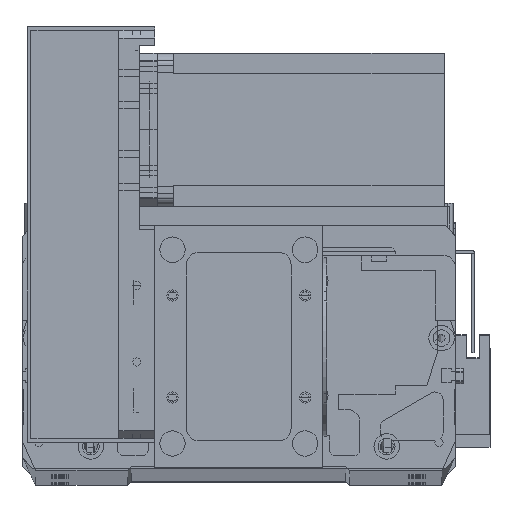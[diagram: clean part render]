
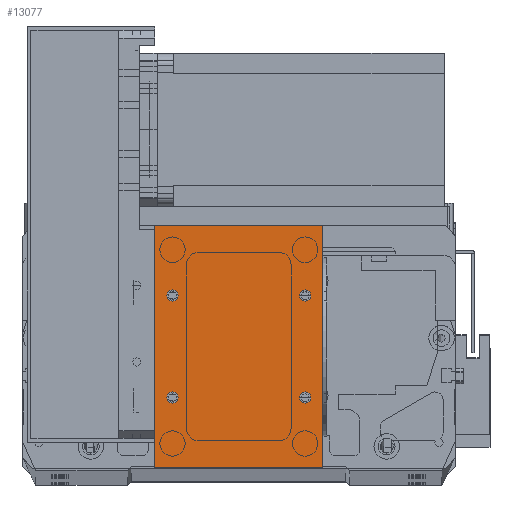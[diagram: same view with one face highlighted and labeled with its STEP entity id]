
A CAD part, top view. The second image highlights one B-rep face of the part: STEP entity #13077.
In plain terms, the highlighted planar face has unit normal (0, 0, 1).
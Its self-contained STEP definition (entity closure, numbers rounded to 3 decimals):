
#65 = CIRCLE ( 'NONE', #1402, 2.25 ) ;
#732 = VERTEX_POINT ( 'NONE', #19707 ) ;
#976 = ORIENTED_EDGE ( 'NONE', *, *, #13814, .F. ) ;
#1141 = CIRCLE ( 'NONE', #1289, 2.25 ) ;
#1223 = CARTESIAN_POINT ( 'NONE',  ( 66., 0., 2. ) ) ;
#1289 = AXIS2_PLACEMENT_3D ( 'NONE', #7472, #26379, #10118 ) ;
#1402 = AXIS2_PLACEMENT_3D ( 'NONE', #8544, #27444, #11222 ) ;
#1623 = CARTESIAN_POINT ( 'NONE',  ( 0., 0., 2. ) ) ;
#1878 = VERTEX_POINT ( 'NONE', #10979 ) ;
#2768 = DIRECTION ( 'NONE',  ( 1., 0., 0. ) ) ;
#3009 = CARTESIAN_POINT ( 'NONE',  ( 56.75, 67.5, 2. ) ) ;
#3662 = CARTESIAN_POINT ( 'NONE',  ( 59., 67.5, 2. ) ) ;
#4787 = FACE_BOUND ( 'NONE', #28247, .T. ) ;
#5132 = EDGE_CURVE ( 'NONE', #35066, #1878, #1141, .T. ) ;
#5249 = ORIENTED_EDGE ( 'NONE', *, *, #5489, .F. ) ;
#5466 = CARTESIAN_POINT ( 'NONE',  ( 61.25, 67.5, 2. ) ) ;
#5489 = EDGE_CURVE ( 'NONE', #24338, #18194, #31572, .T. ) ;
#5542 = VECTOR ( 'NONE', #2768, 1000. ) ;
#5930 = ORIENTED_EDGE ( 'NONE', *, *, #23966, .T. ) ;
#6005 = ORIENTED_EDGE ( 'NONE', *, *, #22633, .T. ) ;
#6360 = AXIS2_PLACEMENT_3D ( 'NONE', #28690, #12480, #31432 ) ;
#6367 = DIRECTION ( 'NONE',  ( 1., 0., 0. ) ) ;
#6735 = AXIS2_PLACEMENT_3D ( 'NONE', #24706, #8488, #27393 ) ;
#6810 = AXIS2_PLACEMENT_3D ( 'NONE', #31493, #15264, #34200 ) ;
#6947 = CARTESIAN_POINT ( 'NONE',  ( 56.75, 27.5, 2. ) ) ;
#7358 = DIRECTION ( 'NONE',  ( -1., 0., 0. ) ) ;
#7380 = LINE ( 'NONE', #9486, #13703 ) ;
#7472 = CARTESIAN_POINT ( 'NONE',  ( 7., 27.5, 2. ) ) ;
#7632 = EDGE_LOOP ( 'NONE', ( #29282, #10846 ) ) ;
#8488 = DIRECTION ( 'NONE',  ( 0., 0., 1. ) ) ;
#8544 = CARTESIAN_POINT ( 'NONE',  ( 59., 67.5, 2. ) ) ;
#8560 = CARTESIAN_POINT ( 'NONE',  ( 0., 0., 2. ) ) ;
#8840 = EDGE_CURVE ( 'NONE', #732, #32478, #11059, .T. ) ;
#9229 = EDGE_CURVE ( 'NONE', #18194, #24338, #65, .T. ) ;
#9451 = VERTEX_POINT ( 'NONE', #25574 ) ;
#9486 = CARTESIAN_POINT ( 'NONE',  ( 0., 0., 2. ) ) ;
#9552 = ORIENTED_EDGE ( 'NONE', *, *, #12763, .F. ) ;
#9733 = DIRECTION ( 'NONE',  ( 0., 0., -1. ) ) ;
#10118 = DIRECTION ( 'NONE',  ( 1., 0., 0. ) ) ;
#10597 = CIRCLE ( 'NONE', #23398, 2.25 ) ;
#10846 = ORIENTED_EDGE ( 'NONE', *, *, #5132, .F. ) ;
#10979 = CARTESIAN_POINT ( 'NONE',  ( 9.25, 27.5, 2. ) ) ;
#11059 = CIRCLE ( 'NONE', #6360, 2.25 ) ;
#11222 = DIRECTION ( 'NONE',  ( 1., 0., 0. ) ) ;
#11388 = VERTEX_POINT ( 'NONE', #21884 ) ;
#11440 = VERTEX_POINT ( 'NONE', #27408 ) ;
#11665 = ORIENTED_EDGE ( 'NONE', *, *, #14917, .T. ) ;
#12141 = VERTEX_POINT ( 'NONE', #21906 ) ;
#12480 = DIRECTION ( 'NONE',  ( 0., 0., 1. ) ) ;
#12763 = EDGE_CURVE ( 'NONE', #11388, #27897, #29337, .T. ) ;
#13077 = ADVANCED_FACE ( 'NONE', ( #4787, #27207, #32698, #25517, #18308 ), #20536, .F. ) ;
#13294 = AXIS2_PLACEMENT_3D ( 'NONE', #1623, #9733, #28673 ) ;
#13467 = CARTESIAN_POINT ( 'NONE',  ( 4.75, 27.5, 2. ) ) ;
#13703 = VECTOR ( 'NONE', #33861, 1000. ) ;
#13814 = EDGE_CURVE ( 'NONE', #32478, #732, #10597, .T. ) ;
#14144 = CARTESIAN_POINT ( 'NONE',  ( 7., 27.5, 2. ) ) ;
#14820 = AXIS2_PLACEMENT_3D ( 'NONE', #14144, #33063, #16849 ) ;
#14917 = EDGE_CURVE ( 'NONE', #11440, #12141, #26703, .T. ) ;
#15264 = DIRECTION ( 'NONE',  ( 0., 0., 1. ) ) ;
#15510 = DIRECTION ( 'NONE',  ( 0., 0., 1. ) ) ;
#15554 = CIRCLE ( 'NONE', #14820, 2.25 ) ;
#16849 = DIRECTION ( 'NONE',  ( 1., 0., 0. ) ) ;
#18194 = VERTEX_POINT ( 'NONE', #3009 ) ;
#18308 = FACE_OUTER_BOUND ( 'NONE', #25840, .T. ) ;
#19309 = CARTESIAN_POINT ( 'NONE',  ( 9.25, 67.5, 2. ) ) ;
#19415 = EDGE_CURVE ( 'NONE', #1878, #35066, #15554, .T. ) ;
#19707 = CARTESIAN_POINT ( 'NONE',  ( 4.75, 67.5, 2. ) ) ;
#20137 = DIRECTION ( 'NONE',  ( 0., 1., 0. ) ) ;
#20324 = ORIENTED_EDGE ( 'NONE', *, *, #8840, .F. ) ;
#20354 = CIRCLE ( 'NONE', #6810, 2.25 ) ;
#20536 = PLANE ( 'NONE',  #13294 ) ;
#20621 = ORIENTED_EDGE ( 'NONE', *, *, #24072, .F. ) ;
#21677 = LINE ( 'NONE', #1223, #31801 ) ;
#21884 = CARTESIAN_POINT ( 'NONE',  ( 61.25, 27.5, 2. ) ) ;
#21906 = CARTESIAN_POINT ( 'NONE',  ( 0., 95., 2. ) ) ;
#21985 = ORIENTED_EDGE ( 'NONE', *, *, #9229, .F. ) ;
#22385 = AXIS2_PLACEMENT_3D ( 'NONE', #3662, #22599, #6367 ) ;
#22599 = DIRECTION ( 'NONE',  ( 0., 0., 1. ) ) ;
#22633 = EDGE_CURVE ( 'NONE', #12141, #26572, #7380, .T. ) ;
#23237 = EDGE_LOOP ( 'NONE', ( #5249, #21985 ) ) ;
#23398 = AXIS2_PLACEMENT_3D ( 'NONE', #31709, #15510, #34446 ) ;
#23966 = EDGE_CURVE ( 'NONE', #9451, #11440, #21677, .T. ) ;
#24072 = EDGE_CURVE ( 'NONE', #27897, #11388, #20354, .T. ) ;
#24313 = EDGE_CURVE ( 'NONE', #26572, #9451, #27939, .T. ) ;
#24338 = VERTEX_POINT ( 'NONE', #5466 ) ;
#24385 = CARTESIAN_POINT ( 'NONE',  ( 0., 0., 2. ) ) ;
#24706 = CARTESIAN_POINT ( 'NONE',  ( 59., 27.5, 2. ) ) ;
#25517 = FACE_BOUND ( 'NONE', #7632, .T. ) ;
#25574 = CARTESIAN_POINT ( 'NONE',  ( 66., 0., 2. ) ) ;
#25840 = EDGE_LOOP ( 'NONE', ( #6005, #32686, #5930, #11665 ) ) ;
#26379 = DIRECTION ( 'NONE',  ( 0., 0., 1. ) ) ;
#26572 = VERTEX_POINT ( 'NONE', #8560 ) ;
#26703 = LINE ( 'NONE', #31566, #33039 ) ;
#26859 = EDGE_LOOP ( 'NONE', ( #9552, #20621 ) ) ;
#27207 = FACE_BOUND ( 'NONE', #23237, .T. ) ;
#27393 = DIRECTION ( 'NONE',  ( 1., 0., 0. ) ) ;
#27408 = CARTESIAN_POINT ( 'NONE',  ( 66., 95., 2. ) ) ;
#27444 = DIRECTION ( 'NONE',  ( 0., 0., 1. ) ) ;
#27897 = VERTEX_POINT ( 'NONE', #6947 ) ;
#27939 = LINE ( 'NONE', #24385, #5542 ) ;
#28247 = EDGE_LOOP ( 'NONE', ( #976, #20324 ) ) ;
#28673 = DIRECTION ( 'NONE',  ( -1., 0., 0. ) ) ;
#28690 = CARTESIAN_POINT ( 'NONE',  ( 7., 67.5, 2. ) ) ;
#29282 = ORIENTED_EDGE ( 'NONE', *, *, #19415, .F. ) ;
#29337 = CIRCLE ( 'NONE', #6735, 2.25 ) ;
#31432 = DIRECTION ( 'NONE',  ( 1., 0., 0. ) ) ;
#31493 = CARTESIAN_POINT ( 'NONE',  ( 59., 27.5, 2. ) ) ;
#31566 = CARTESIAN_POINT ( 'NONE',  ( 0., 95., 2. ) ) ;
#31572 = CIRCLE ( 'NONE', #22385, 2.25 ) ;
#31709 = CARTESIAN_POINT ( 'NONE',  ( 7., 67.5, 2. ) ) ;
#31801 = VECTOR ( 'NONE', #20137, 1000. ) ;
#32478 = VERTEX_POINT ( 'NONE', #19309 ) ;
#32686 = ORIENTED_EDGE ( 'NONE', *, *, #24313, .T. ) ;
#32698 = FACE_BOUND ( 'NONE', #26859, .T. ) ;
#33039 = VECTOR ( 'NONE', #7358, 1000. ) ;
#33063 = DIRECTION ( 'NONE',  ( 0., 0., 1. ) ) ;
#33861 = DIRECTION ( 'NONE',  ( 0., -1., 0. ) ) ;
#34200 = DIRECTION ( 'NONE',  ( 1., 0., 0. ) ) ;
#34446 = DIRECTION ( 'NONE',  ( 1., 0., 0. ) ) ;
#35066 = VERTEX_POINT ( 'NONE', #13467 ) ;
